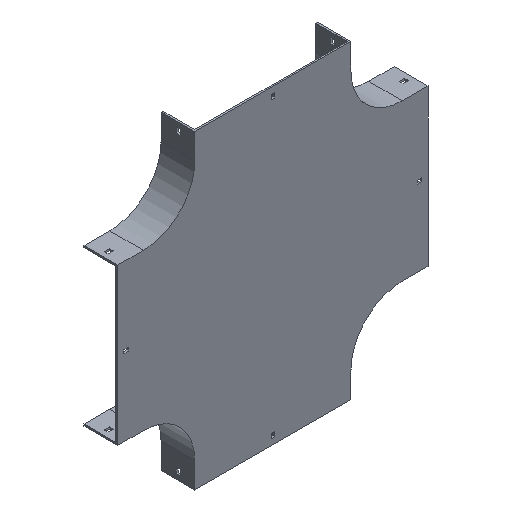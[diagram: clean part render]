
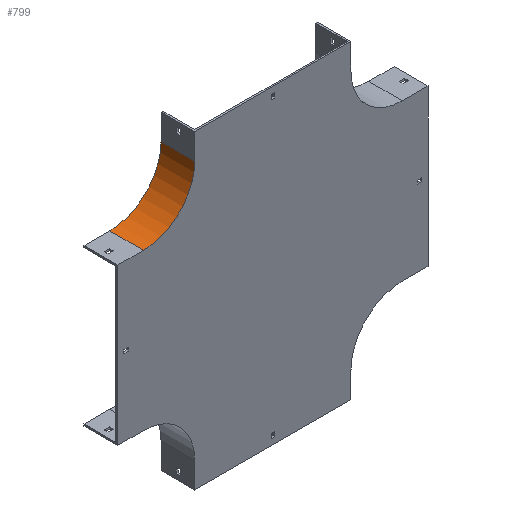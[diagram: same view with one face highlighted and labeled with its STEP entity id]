
A CAD part, isometric view. The second image highlights one B-rep face of the part: STEP entity #799.
In plain terms, the highlighted cylindrical face has radius 100 mm (diameter 200 mm), a partial arc.
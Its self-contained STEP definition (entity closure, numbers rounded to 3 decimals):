
#29 = EDGE_LOOP ( 'NONE', ( #897, #2179, #2480, #2367 ) ) ;
#50 = CIRCLE ( 'NONE', #779, 100. ) ;
#126 = CYLINDRICAL_SURFACE ( 'NONE', #1350, 100. ) ;
#151 = DIRECTION ( 'NONE',  ( 0., 0., 1. ) ) ;
#295 = VERTEX_POINT ( 'NONE', #1308 ) ;
#307 = VERTEX_POINT ( 'NONE', #1323 ) ;
#569 = VERTEX_POINT ( 'NONE', #2364 ) ;
#691 = AXIS2_PLACEMENT_3D ( 'NONE', #2452, #2464, #151 ) ;
#779 = AXIS2_PLACEMENT_3D ( 'NONE', #1458, #2507, #1263 ) ;
#799 = ADVANCED_FACE ( 'NONE', ( #1407 ), #126, .F. ) ;
#897 = ORIENTED_EDGE ( 'NONE', *, *, #2512, .T. ) ;
#998 = DIRECTION ( 'NONE',  ( 0., -1., 0. ) ) ;
#1071 = DIRECTION ( 'NONE',  ( 0., -1., 0. ) ) ;
#1258 = CARTESIAN_POINT ( 'NONE',  ( -504., 65.5, -100. ) ) ;
#1263 = DIRECTION ( 'NONE',  ( 0., 0., 1. ) ) ;
#1308 = CARTESIAN_POINT ( 'NONE',  ( -404., 65.5, 0. ) ) ;
#1323 = CARTESIAN_POINT ( 'NONE',  ( -504., 0., -100. ) ) ;
#1350 = AXIS2_PLACEMENT_3D ( 'NONE', #2286, #998, #2685 ) ;
#1407 = FACE_OUTER_BOUND ( 'NONE', #29, .T. ) ;
#1458 = CARTESIAN_POINT ( 'NONE',  ( -504., 65.5, 0. ) ) ;
#1578 = CARTESIAN_POINT ( 'NONE',  ( -404., 65.5, 0. ) ) ;
#1612 = EDGE_CURVE ( 'NONE', #569, #307, #2513, .T. ) ;
#1620 = VERTEX_POINT ( 'NONE', #2131 ) ;
#1719 = EDGE_CURVE ( 'NONE', #569, #295, #50, .T. ) ;
#1857 = CIRCLE ( 'NONE', #691, 100. ) ;
#1921 = EDGE_CURVE ( 'NONE', #295, #1620, #1994, .T. ) ;
#1994 = LINE ( 'NONE', #1578, #2022 ) ;
#2022 = VECTOR ( 'NONE', #2288, 1000. ) ;
#2131 = CARTESIAN_POINT ( 'NONE',  ( -404., 0., 0. ) ) ;
#2179 = ORIENTED_EDGE ( 'NONE', *, *, #1921, .F. ) ;
#2195 = VECTOR ( 'NONE', #1071, 1000. ) ;
#2286 = CARTESIAN_POINT ( 'NONE',  ( -504., 65.5, 0. ) ) ;
#2288 = DIRECTION ( 'NONE',  ( 0., -1., 0. ) ) ;
#2364 = CARTESIAN_POINT ( 'NONE',  ( -504., 65.5, -100. ) ) ;
#2367 = ORIENTED_EDGE ( 'NONE', *, *, #1612, .T. ) ;
#2452 = CARTESIAN_POINT ( 'NONE',  ( -504., 0., 0. ) ) ;
#2464 = DIRECTION ( 'NONE',  ( 0., -1., 0. ) ) ;
#2480 = ORIENTED_EDGE ( 'NONE', *, *, #1719, .F. ) ;
#2507 = DIRECTION ( 'NONE',  ( 0., -1., 0. ) ) ;
#2512 = EDGE_CURVE ( 'NONE', #307, #1620, #1857, .T. ) ;
#2513 = LINE ( 'NONE', #1258, #2195 ) ;
#2685 = DIRECTION ( 'NONE',  ( 0., 0., -1. ) ) ;
